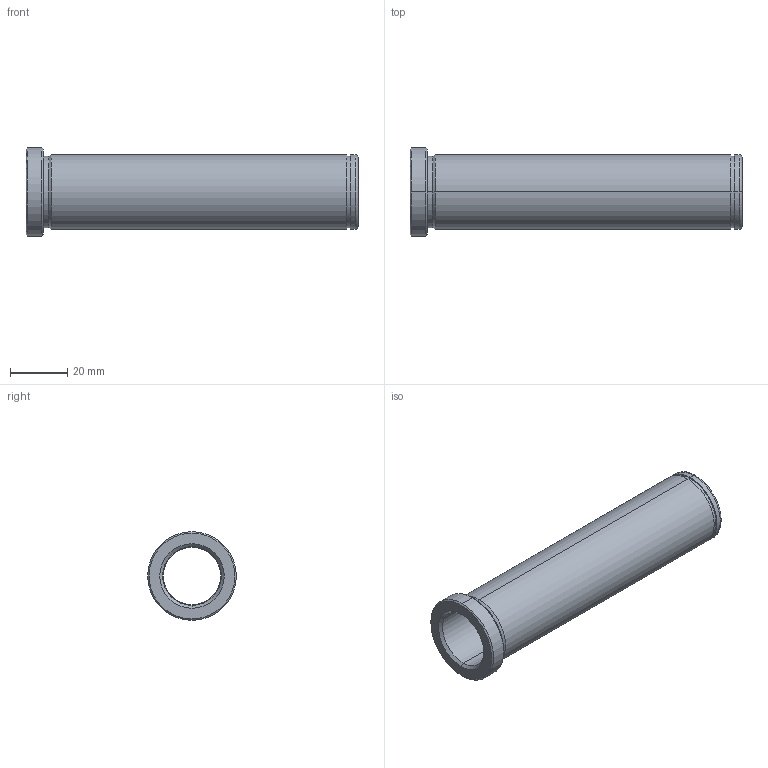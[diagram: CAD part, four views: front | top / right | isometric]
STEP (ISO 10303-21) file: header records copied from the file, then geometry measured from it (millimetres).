
FILE_DESCRIPTION(('CATIA V5 STEP Exchange'),'2;1');
FILE_NAME('C:\Users\Utente\Desktop\IO LAVORO\3D X SITO CF\X SITO\PLASTICA\553\553-20X116.stp','2021-05-23T18:19:27+00:00',('none'),('none'),'CATIA Version 5 Release 20 GA (IN-10)','CATIA V5 STEP AP203','none');
FILE_SCHEMA(('CONFIG_CONTROL_DESIGN'));
Length unit declared in the file: millimetre
Products named in the file (1): 553-20X116
Bounding box: 116 x 31 x 31 mm (x, y, z)
Volume: 25278.4 mm3; surface area: 17783.3 mm2
Topology: 1 solids, 1 shells, 32 faces, 102 edges, 76 vertices
Faces by surface type: cylinder 14, cone 8, plane 6, torus 4
Entity records: 1334 total; most frequent: CARTESIAN_POINT 389, ORIENTED_EDGE 204, DIRECTION 152, EDGE_CURVE 102, AXIS2_PLACEMENT_3D 99, VERTEX_POINT 76, CIRCLE 66, EDGE_LOOP 38
